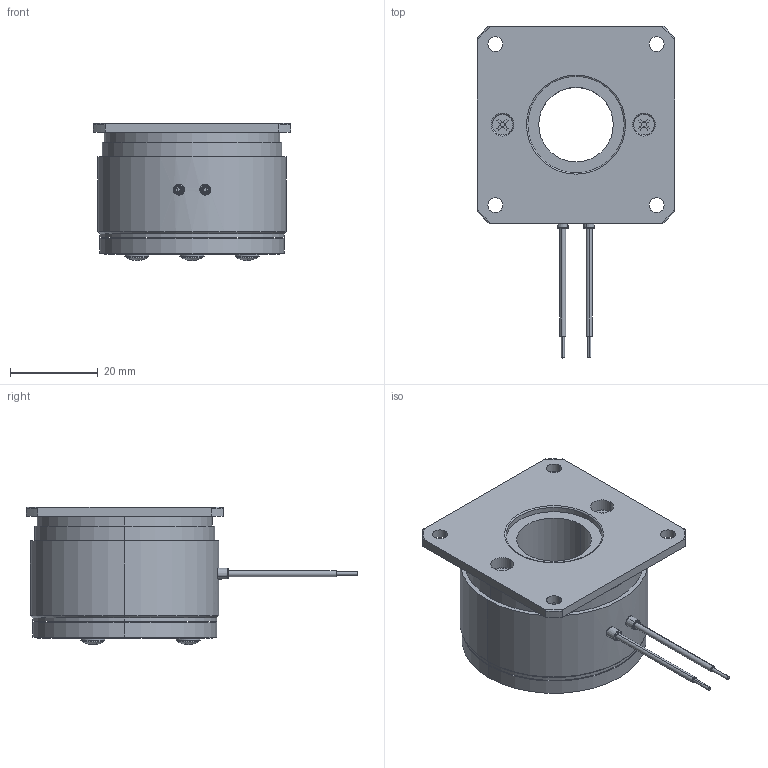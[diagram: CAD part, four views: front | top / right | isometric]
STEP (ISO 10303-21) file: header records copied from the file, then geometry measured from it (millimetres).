
FILE_DESCRIPTION (( 'STEP AP214' ), '1' );
FILE_NAME ('04P1210.STEP', '2026-04-23T06:19:40', ( '' ), ( '' ), 'SwSTEP 2.0', 'SolidWorks 2025', '' );
FILE_SCHEMA (( 'AUTOMOTIVE_DESIGN' ));
Length unit declared in the file: millimetre
Products named in the file (7): 10088625swp000; 10088629swp000; 04P1210; 10088626swp000_genietet (2,35mm Klemmlänge); 10088627swa000; 10088628swp000; 10088623swp000
Assembly tree (10 placements, depth 3):
  04P1210
    10088623swp000
    10088627swa000
      10088628swp000
      10088625swp000
      10088626swp000_genietet (2,35mm Klemmlänge)  x3
      10088629swp000  x3
Bounding box: 45 x 75.7 x 31.3 mm (x, y, z)
Volume: 35395.9 mm3; surface area: 14600.8 mm2
Topology: 11 solids, 11 shells, 259 faces, 600 edges, 374 vertices
Faces by surface type: cylinder 114, plane 59, cone 54, torus 26, sphere 6
Entity records: 6451 total; most frequent: CARTESIAN_POINT 1207, DIRECTION 1156, ORIENTED_EDGE 964, EDGE_CURVE 482, AXIS2_PLACEMENT_3D 471, VERTEX_POINT 306, EDGE_LOOP 260, CIRCLE 252
